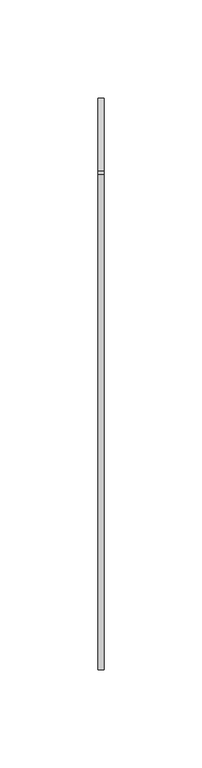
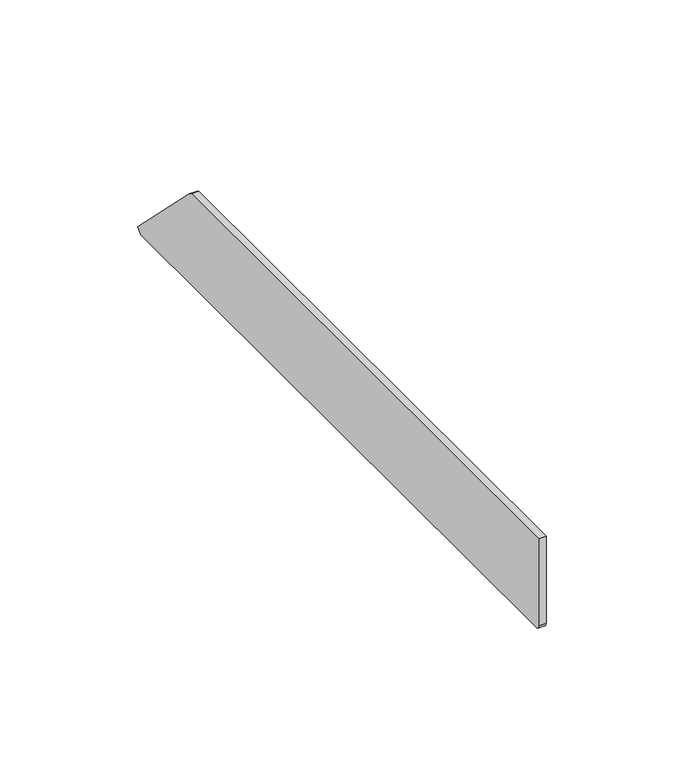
"""IFC4 building model written with IfcOpenShell, lengths in millimetres: cable carrier fitting geometry, Electrical_Installation_Hager_End-Piece : Electrical_Installation_Hager_End-Piece."""

from ifc_helpers import new_model, si_unit, point, frame, frame_2d, origin, place, context, project, spatial, polyline, circle_curve, trimmed, segment, composite_curve, outline, extrude, source, transform, mapped, element, save


def cable_carrier_fitting_cbe752f2(model_context):
    return source(origin(), model_context, "Body", "SweptSolid", [
        extrude(outline(composite_curve([segment(polyline([(-125.0, -18.0), (-125.0, 20.5), (126.7124549, 20.5)]), True, "CONTINUOUS"), segment(trimmed(circle_curve(frame_2d((125.5004738, 16.6648514)), 4.0220969), [point((126.7124549, 20.5))], [point((128.5142136, 19.3284271))], False, "CARTESIAN"), True, "CONTINUOUS"), segment(polyline([(128.5142136, 19.3284271), (165.7213203, -17.8786797), (163.6, -20.0), (-123.0, -20.0)]), True, "CONTINUOUS"), segment(trimmed(circle_curve(frame_2d((-123.0, -18.0)), 2.0), [point((-123.0, -20.0))], [point((-125.0, -18.0))], False, "CARTESIAN"), True, "CONTINUOUS")], self_intersect=False)), frame((0.0, 0.0, 0.0), z_axis=(1.0, 0.0, 0.0), x_axis=(0.0, 1.0, 0.0)), (0.0, 0.0, 1.0), 3.0),
    ])


if __name__ == "__main__":
    model = new_model("IFC4")
    model_context = context("Model", 3, world=origin())
    ifc_project = project(units=[si_unit("LENGTHUNIT", "METRE", prefix="MILLI")], contexts=[model_context])
    site = spatial("IfcSite", under=ifc_project)
    building = spatial("IfcBuilding", under=site)
    placement = place(None, origin())
    cable_carrier_fitting_shape = cable_carrier_fitting_cbe752f2(model_context)
    element("IfcCableCarrierFitting", 1, ObjectType="Electrical_Installation_Hager_End-Piece : Electrical_Installation_Hager_End-Piece", at=placement, inside=building, context=model_context, shape_type="MappedRepresentation", body=[
        mapped(cable_carrier_fitting_shape, transform((0.0, 0.0, 0.0), x_axis=(1.0, 0.0, 0.0), y_axis=(0.0, 1.0, 0.0), z_axis=(0.0, 0.0, 1.0))),
    ])
    save(model, "model.ifc")
